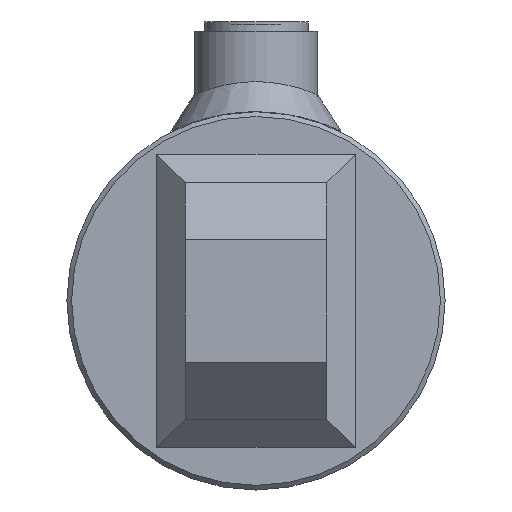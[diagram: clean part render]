
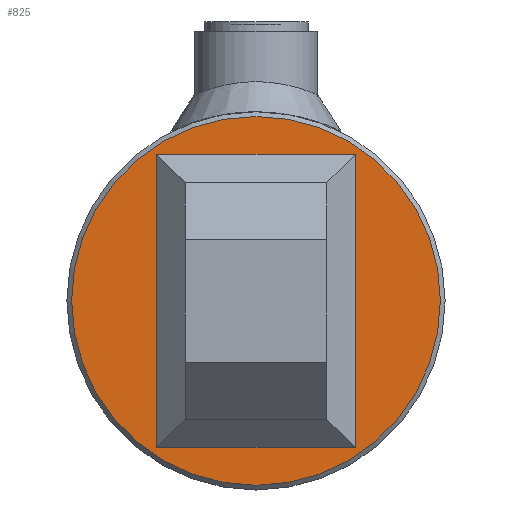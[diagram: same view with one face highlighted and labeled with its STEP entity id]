
A CAD part, left-side view. The second image highlights one B-rep face of the part: STEP entity #825.
In plain terms, the highlighted planar face has unit normal (-1, 0, 0).
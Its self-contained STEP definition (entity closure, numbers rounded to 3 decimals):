
#825 = ADVANCED_FACE( '', ( #1524 ), #1525, .T. );
#1524 = FACE_OUTER_BOUND( '', #2706, .T. );
#1525 = PLANE( '', #2707 );
#2706 = EDGE_LOOP( '', ( #6132 ) );
#2707 = AXIS2_PLACEMENT_3D( '', #6133, #6134, #6135 );
#6132 = ORIENTED_EDGE( '', *, *, #7535, .T. );
#6133 = CARTESIAN_POINT( '', ( -12., 0., 0. ) );
#6134 = DIRECTION( '', ( -1., 0., 0. ) );
#6135 = DIRECTION( '', ( 0., -1., 0. ) );
#7535 = EDGE_CURVE( '', #8274, #8274, #8275, .T. );
#8274 = VERTEX_POINT( '', #9241 );
#8275 = CIRCLE( '', #9242, 39. );
#9241 = CARTESIAN_POINT( '', ( -12., -39., 0. ) );
#9242 = AXIS2_PLACEMENT_3D( '', #10962, #10963, #10964 );
#10962 = CARTESIAN_POINT( '', ( -12., 0., 0. ) );
#10963 = DIRECTION( '', ( -1., 0., 0. ) );
#10964 = DIRECTION( '', ( 0., -1., 0. ) );
